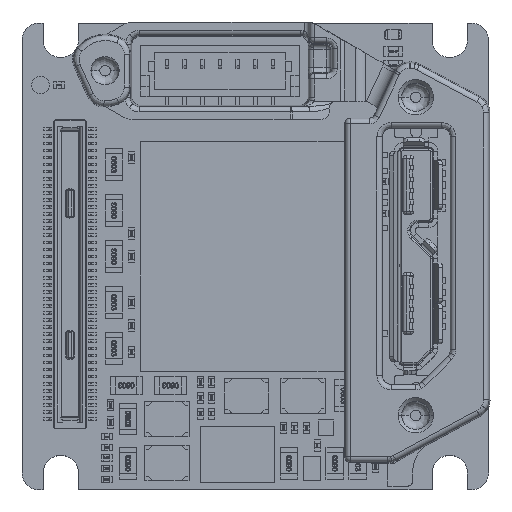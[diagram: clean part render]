
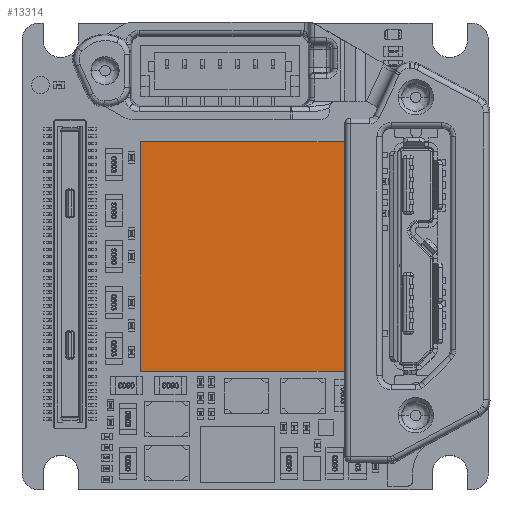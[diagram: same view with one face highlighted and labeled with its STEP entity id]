
A CAD part, top view. The second image highlights one B-rep face of the part: STEP entity #13314.
In plain terms, the highlighted planar face has unit normal (0, 0, 1).
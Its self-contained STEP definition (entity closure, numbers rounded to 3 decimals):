
#6790 = EDGE_CURVE ( 'NONE', #433681, #409750, #315156, .T. ) ;
#13314 = ADVANCED_FACE ( 'NONE', ( #131898 ), #134486, .F. ) ;
#68977 = EDGE_CURVE ( 'NONE', #409750, #326556, #468157, .T. ) ;
#70117 = CARTESIAN_POINT ( 'NONE',  ( 6.5, 6.5, 6.172 ) ) ;
#82000 = EDGE_CURVE ( 'NONE', #326556, #393707, #282121, .T. ) ;
#91161 = VECTOR ( 'NONE', #337233, 1000. ) ;
#94662 = DIRECTION ( 'NONE',  ( 0., -1., 0. ) ) ;
#106493 = CARTESIAN_POINT ( 'NONE',  ( -6.5, 6.5, 6.172 ) ) ;
#131898 = FACE_OUTER_BOUND ( 'NONE', #497986, .T. ) ;
#134486 = PLANE ( 'NONE',  #356354 ) ;
#159673 = DIRECTION ( 'NONE',  ( 0., -1., 0. ) ) ;
#213539 = VECTOR ( 'NONE', #432261, 1000. ) ;
#222892 = CARTESIAN_POINT ( 'NONE',  ( -6.5, 6.5, 6.172 ) ) ;
#228558 = EDGE_CURVE ( 'NONE', #393707, #433681, #254698, .T. ) ;
#230385 = ORIENTED_EDGE ( 'NONE', *, *, #82000, .F. ) ;
#252116 = CARTESIAN_POINT ( 'NONE',  ( 6.5, -6.5, 6.172 ) ) ;
#254698 = LINE ( 'NONE', #252116, #91161 ) ;
#260621 = VECTOR ( 'NONE', #159673, 1000. ) ;
#266024 = DIRECTION ( 'NONE',  ( 1., 0., 0. ) ) ;
#282121 = LINE ( 'NONE', #70117, #260621 ) ;
#283765 = CARTESIAN_POINT ( 'NONE',  ( -6.5, -6.5, 6.172 ) ) ;
#312510 = CARTESIAN_POINT ( 'NONE',  ( -6.5, -6.5, 6.172 ) ) ;
#315156 = LINE ( 'NONE', #312510, #213539 ) ;
#326556 = VERTEX_POINT ( 'NONE', #354154 ) ;
#337233 = DIRECTION ( 'NONE',  ( -1., 0., 0. ) ) ;
#354154 = CARTESIAN_POINT ( 'NONE',  ( 6.5, 6.5, 6.172 ) ) ;
#356354 = AXIS2_PLACEMENT_3D ( 'NONE', #451148, #381779, #94662 ) ;
#381779 = DIRECTION ( 'NONE',  ( 0., 0., -1. ) ) ;
#393707 = VERTEX_POINT ( 'NONE', #434249 ) ;
#409750 = VERTEX_POINT ( 'NONE', #222892 ) ;
#414876 = ORIENTED_EDGE ( 'NONE', *, *, #68977, .F. ) ;
#419432 = ORIENTED_EDGE ( 'NONE', *, *, #6790, .F. ) ;
#432261 = DIRECTION ( 'NONE',  ( 0., 1., 0. ) ) ;
#433681 = VERTEX_POINT ( 'NONE', #283765 ) ;
#434249 = CARTESIAN_POINT ( 'NONE',  ( 6.5, -6.5, 6.172 ) ) ;
#451148 = CARTESIAN_POINT ( 'NONE',  ( 0., 0., 6.172 ) ) ;
#459917 = VECTOR ( 'NONE', #266024, 1000. ) ;
#468157 = LINE ( 'NONE', #106493, #459917 ) ;
#496131 = ORIENTED_EDGE ( 'NONE', *, *, #228558, .F. ) ;
#497986 = EDGE_LOOP ( 'NONE', ( #496131, #230385, #414876, #419432 ) ) ;
